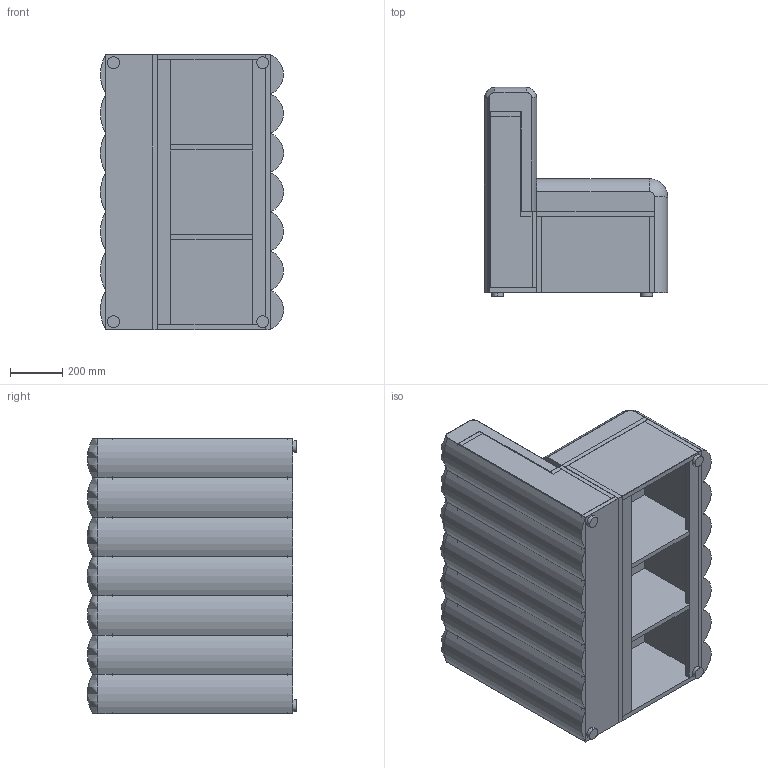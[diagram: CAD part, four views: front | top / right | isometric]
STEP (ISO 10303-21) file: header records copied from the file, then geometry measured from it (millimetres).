
FILE_DESCRIPTION (( 'STEP AP203' ), '1' );
FILE_NAME ('Banquette KUMO.STEP', '2025-06-25T08:04:50', ( '' ), ( '' ), 'SwSTEP 2.0', 'SolidWorks 2021', '' );
FILE_SCHEMA (( 'CONFIG_CONTROL_DESIGN' ));
Length unit declared in the file: millimetre
Products named in the file (3): Caisse; Dossier; Banquette KUMO
Assembly tree (2 placements, depth 2):
  Banquette KUMO
    Dossier
    Caisse
Bounding box: 700 x 800 x 1051 mm (x, y, z)
Volume: 166828165 mm3; surface area: 14273081.4 mm2
Topology: 37 solids, 37 shells, 308 faces, 674 edges, 440 vertices
Faces by surface type: plane 227, cylinder 60, torus 21
Entity records: 8611 total; most frequent: DIRECTION 1462, CARTESIAN_POINT 1427, ORIENTED_EDGE 1348, EDGE_CURVE 674, VECTOR 512, LINE 512, AXIS2_PLACEMENT_3D 475, VERTEX_POINT 440
